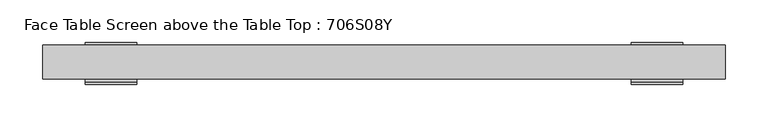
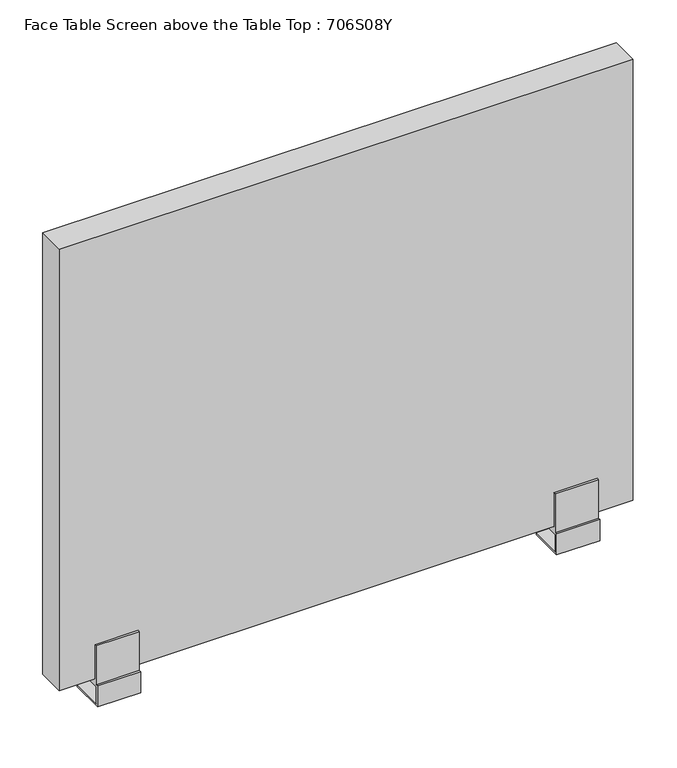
"""IFC4 building model written with IfcOpenShell, lengths in millimetres: furniture geometry, Face Table Screen above the Table Top : 706S08Y."""

from ifc_helpers import new_model, si_unit, frame, origin, place, context, project, spatial, polyline, circle_curve, outline, extrude, source, transform, mapped, element, save
from ifc_brep_helpers import plane_surface, cylinder_surface, advanced_brep


def face_table_screen_above_the_table_top_706s08y_08bfc1dc(model_context):
    return source(origin(), model_context, "Body", "SolidModel", [
        advanced_brep(
        [(-325.0, 0.0, -39.4406633), (-315.0, 0.0, -39.4406633), (-315.0, 0.0, -28.0), (-325.0, 0.0, -28.0), (-350.0, 23.0, -25.0), (-350.0, -23.0, -25.0), (-290.0, -23.0, -25.0), (-290.0, 23.0, -25.0), (-350.0, -23.0, 0.0), (-350.0, 23.0, -28.0), (-350.0, -26.0, -28.0), (-350.0, -26.0, 3.0), (-350.0, -23.0, 3.0), (-350.0, -23.0, 60.0), (-350.0, -20.0, 60.0), (-350.0, -20.0, 10.0), (-350.0, 20.0, 10.0), (-350.0, 20.0, 60.0), (-350.0, 23.0, 60.0), (-350.0, 23.0, 0.0), (-290.0, -23.0, 0.0), (-290.0, 23.0, 0.0), (-290.0, 23.0, 60.0), (-290.0, 20.0, 60.0), (-290.0, 20.0, 10.0), (-290.0, -20.0, 10.0), (-290.0, -20.0, 60.0), (-290.0, -23.0, 60.0), (-290.0, -23.0, 3.0), (-290.0, -26.0, 3.0), (-290.0, -26.0, -28.0), (-290.0, 23.0, -28.0)],
        [
            (0, 1, circle_curve(frame((-320.0, 0.0, -39.4406633), z_axis=(0.0, 0.0, -1.0), x_axis=(1.0, 0.0, 0.0)), 5.0)),
            (1, 0, circle_curve(frame((-320.0, 0.0, -39.4406633), z_axis=(0.0, 0.0, -1.0), x_axis=(1.0, 0.0, 0.0)), 5.0)),
            (1, 2),
            (2, 3, circle_curve(frame((-320.0, 0.0, -28.0), z_axis=(0.0, 0.0, -1.0), x_axis=(1.0, 0.0, 0.0)), 5.0)),
            (3, 0),
            (3, 2, circle_curve(frame((-320.0, 0.0, -28.0), z_axis=(0.0, 0.0, -1.0), x_axis=(1.0, 0.0, 0.0)), 5.0)),
            (4, 5),
            (5, 6),
            (6, 7),
            (7, 4),
            (8, 5),
            (4, 9),
            (9, 10),
            (10, 11),
            (11, 12),
            (12, 13),
            (13, 14),
            (14, 15),
            (15, 16),
            (16, 17),
            (17, 18),
            (18, 19),
            (19, 8),
            (20, 21),
            (21, 22),
            (22, 23),
            (23, 24),
            (24, 25),
            (25, 26),
            (26, 27),
            (27, 28),
            (28, 29),
            (29, 30),
            (30, 31),
            (31, 7),
            (6, 20),
            (19, 21),
            (20, 8),
            (18, 22),
            (17, 23),
            (16, 24),
            (15, 25),
            (14, 26),
            (13, 27),
            (12, 28),
            (11, 29),
            (10, 30),
            (9, 31),
        ],
        [
            plane_surface(frame((-315.0, 0.0, -39.4406633), z_axis=(0.0, 0.0, -1.0), x_axis=(0.0, -1.0, 0.0))),
            cylinder_surface(frame((-320.0, 0.0, -39.4406633), z_axis=(0.0, 0.0, 1.0), x_axis=(1.0, 0.0, 0.0)), 5.0),
            plane_surface(frame((-315.0, 0.0, -25.0), z_axis=(0.0, 0.0, 1.0), x_axis=(0.0, 1.0, 0.0))),
            plane_surface(frame((-350.0, 23.0, 0.0), z_axis=(-1.0, 0.0, 0.0), x_axis=(0.0, -1.0, 0.0))),
            plane_surface(frame((-290.0, 23.0, 0.0), z_axis=(1.0, 0.0, 0.0), x_axis=(0.0, 1.0, 0.0))),
            plane_surface(frame((-290.0, -23.0, 0.0), z_axis=(0.0, 0.0, -1.0), x_axis=(-1.0, 0.0, 0.0))),
            plane_surface(frame((-290.0, 23.0, 0.0), z_axis=(0.0, 1.0, 0.0), x_axis=(-1.0, 0.0, 0.0))),
            plane_surface(frame((-290.0, 23.0, 60.0), z_axis=(0.0, 0.0, 1.0), x_axis=(-1.0, 0.0, 0.0))),
            plane_surface(frame((-290.0, 20.0, 60.0), z_axis=(0.0, -1.0, 0.0), x_axis=(-1.0, 0.0, 0.0))),
            plane_surface(frame((-290.0, 20.0, 10.0), z_axis=(0.0, 0.0, 1.0), x_axis=(-1.0, 0.0, 0.0))),
            plane_surface(frame((-290.0, -20.0, 10.0), z_axis=(0.0, 1.0, 0.0), x_axis=(-1.0, 0.0, 0.0))),
            plane_surface(frame((-290.0, -20.0, 60.0), z_axis=(0.0, 0.0, 1.0), x_axis=(-1.0, 0.0, 0.0))),
            plane_surface(frame((-290.0, -23.0, 60.0), z_axis=(0.0, -1.0, 0.0), x_axis=(-1.0, 0.0, 0.0))),
            plane_surface(frame((-290.0, -23.0, 3.0), z_axis=(0.0, 0.0, 1.0), x_axis=(-1.0, 0.0, 0.0))),
            plane_surface(frame((-290.0, -26.0, 3.0), z_axis=(0.0, -1.0, 0.0), x_axis=(-1.0, 0.0, 0.0))),
            plane_surface(frame((-290.0, -26.0, -28.0), z_axis=(0.0, 0.0, -1.0), x_axis=(-1.0, 0.0, 0.0))),
            plane_surface(frame((-290.0, 23.0, -28.0), z_axis=(0.0, 1.0, 0.0), x_axis=(-1.0, 0.0, 0.0))),
            plane_surface(frame((-290.0, -23.0, -25.0), z_axis=(0.0, 1.0, 0.0), x_axis=(-1.0, 0.0, 0.0))),
        ],
        [
            (0, [[1, 2]]),
            (1, [[-2, 3, 4, 5]]),
            (1, [[-1, -5, 6, -3]]),
            (2, [[7, 8, 9, 10]]),
            (3, [[11, -7, 12, 13, 14, 15, 16, 17, 18, 19, 20, 21, 22, 23]]),
            (4, [[24, 25, 26, 27, 28, 29, 30, 31, 32, 33, 34, 35, -9, 36]]),
            (5, [[-23, 37, -24, 38]]),
            (6, [[-22, 39, -25, -37]]),
            (7, [[-21, 40, -26, -39]]),
            (8, [[-20, 41, -27, -40]]),
            (9, [[-19, 42, -28, -41]]),
            (10, [[-18, 43, -29, -42]]),
            (11, [[-17, 44, -30, -43]]),
            (12, [[-16, 45, -31, -44]]),
            (13, [[-15, 46, -32, -45]]),
            (14, [[-14, 47, -33, -46]]),
            (15, [[-13, 48, -34, -47], [-4, -6]]),
            (16, [[-12, -10, -35, -48]]),
            (17, [[-11, -38, -36, -8]]),
        ],
    ),
        advanced_brep(
        [(315.0, 0.0, -39.4406633), (325.0, 0.0, -39.4406633), (325.0, 0.0, -28.0), (315.0, 0.0, -28.0), (290.0, 23.0, -25.0), (290.0, -23.0, -25.0), (350.0, -23.0, -25.0), (350.0, 23.0, -25.0), (290.0, -23.0, 0.0), (290.0, 23.0, -28.0), (290.0, -26.0, -28.0), (290.0, -26.0, 3.0), (290.0, -23.0, 3.0), (290.0, -23.0, 60.0), (290.0, -20.0, 60.0), (290.0, -20.0, 10.0), (290.0, 20.0, 10.0), (290.0, 20.0, 60.0), (290.0, 23.0, 60.0), (290.0, 23.0, 0.0), (350.0, -23.0, 0.0), (350.0, 23.0, 0.0), (350.0, 23.0, 60.0), (350.0, 20.0, 60.0), (350.0, 20.0, 10.0), (350.0, -20.0, 10.0), (350.0, -20.0, 60.0), (350.0, -23.0, 60.0), (350.0, -23.0, 3.0), (350.0, -26.0, 3.0), (350.0, -26.0, -28.0), (350.0, 23.0, -28.0)],
        [
            (0, 1, circle_curve(frame((320.0, 0.0, -39.4406633), z_axis=(0.0, 0.0, -1.0), x_axis=(1.0, 0.0, 0.0)), 5.0)),
            (1, 0, circle_curve(frame((320.0, 0.0, -39.4406633), z_axis=(0.0, 0.0, -1.0), x_axis=(1.0, 0.0, 0.0)), 5.0)),
            (1, 2),
            (2, 3, circle_curve(frame((320.0, 0.0, -28.0), z_axis=(0.0, 0.0, -1.0), x_axis=(1.0, 0.0, 0.0)), 5.0)),
            (3, 0),
            (3, 2, circle_curve(frame((320.0, 0.0, -28.0), z_axis=(0.0, 0.0, -1.0), x_axis=(1.0, 0.0, 0.0)), 5.0)),
            (4, 5),
            (5, 6),
            (6, 7),
            (7, 4),
            (8, 5),
            (4, 9),
            (9, 10),
            (10, 11),
            (11, 12),
            (12, 13),
            (13, 14),
            (14, 15),
            (15, 16),
            (16, 17),
            (17, 18),
            (18, 19),
            (19, 8),
            (20, 21),
            (21, 22),
            (22, 23),
            (23, 24),
            (24, 25),
            (25, 26),
            (26, 27),
            (27, 28),
            (28, 29),
            (29, 30),
            (30, 31),
            (31, 7),
            (6, 20),
            (19, 21),
            (20, 8),
            (18, 22),
            (17, 23),
            (16, 24),
            (15, 25),
            (14, 26),
            (13, 27),
            (12, 28),
            (11, 29),
            (10, 30),
            (9, 31),
        ],
        [
            plane_surface(frame((325.0, 0.0, -39.4406633), z_axis=(0.0, 0.0, -1.0), x_axis=(0.0, -1.0, 0.0))),
            cylinder_surface(frame((320.0, 0.0, -39.4406633), z_axis=(0.0, 0.0, 1.0), x_axis=(1.0, 0.0, 0.0)), 5.0),
            plane_surface(frame((325.0, 0.0, -25.0), z_axis=(0.0, 0.0, 1.0), x_axis=(0.0, 1.0, 0.0))),
            plane_surface(frame((290.0, 23.0, 0.0), z_axis=(-1.0, 0.0, 0.0), x_axis=(0.0, -1.0, 0.0))),
            plane_surface(frame((350.0, 23.0, 0.0), z_axis=(1.0, 0.0, 0.0), x_axis=(0.0, 1.0, 0.0))),
            plane_surface(frame((350.0, -23.0, 0.0), z_axis=(0.0, 0.0, -1.0), x_axis=(-1.0, 0.0, 0.0))),
            plane_surface(frame((350.0, 23.0, 0.0), z_axis=(0.0, 1.0, 0.0), x_axis=(-1.0, 0.0, 0.0))),
            plane_surface(frame((350.0, 23.0, 60.0), z_axis=(0.0, 0.0, 1.0), x_axis=(-1.0, 0.0, 0.0))),
            plane_surface(frame((350.0, 20.0, 60.0), z_axis=(0.0, -1.0, 0.0), x_axis=(-1.0, 0.0, 0.0))),
            plane_surface(frame((350.0, 20.0, 10.0), z_axis=(0.0, 0.0, 1.0), x_axis=(-1.0, 0.0, 0.0))),
            plane_surface(frame((350.0, -20.0, 10.0), z_axis=(0.0, 1.0, 0.0), x_axis=(-1.0, 0.0, 0.0))),
            plane_surface(frame((350.0, -20.0, 60.0), z_axis=(0.0, 0.0, 1.0), x_axis=(-1.0, 0.0, 0.0))),
            plane_surface(frame((350.0, -23.0, 60.0), z_axis=(0.0, -1.0, 0.0), x_axis=(-1.0, 0.0, 0.0))),
            plane_surface(frame((350.0, -23.0, 3.0), z_axis=(0.0, 0.0, 1.0), x_axis=(-1.0, 0.0, 0.0))),
            plane_surface(frame((350.0, -26.0, 3.0), z_axis=(0.0, -1.0, 0.0), x_axis=(-1.0, 0.0, 0.0))),
            plane_surface(frame((350.0, -26.0, -28.0), z_axis=(0.0, 0.0, -1.0), x_axis=(-1.0, 0.0, 0.0))),
            plane_surface(frame((350.0, 23.0, -28.0), z_axis=(0.0, 1.0, 0.0), x_axis=(-1.0, 0.0, 0.0))),
            plane_surface(frame((350.0, -23.0, -25.0), z_axis=(0.0, 1.0, 0.0), x_axis=(-1.0, 0.0, 0.0))),
        ],
        [
            (0, [[1, 2]]),
            (1, [[-2, 3, 4, 5]]),
            (1, [[-1, -5, 6, -3]]),
            (2, [[7, 8, 9, 10]]),
            (3, [[11, -7, 12, 13, 14, 15, 16, 17, 18, 19, 20, 21, 22, 23]]),
            (4, [[24, 25, 26, 27, 28, 29, 30, 31, 32, 33, 34, 35, -9, 36]]),
            (5, [[-23, 37, -24, 38]]),
            (6, [[-22, 39, -25, -37]]),
            (7, [[-21, 40, -26, -39]]),
            (8, [[-20, 41, -27, -40]]),
            (9, [[-19, 42, -28, -41]]),
            (10, [[-18, 43, -29, -42]]),
            (11, [[-17, 44, -30, -43]]),
            (12, [[-16, 45, -31, -44]]),
            (13, [[-15, 46, -32, -45]]),
            (14, [[-14, 47, -33, -46]]),
            (15, [[-13, 48, -34, -47], [-4, -6]]),
            (16, [[-12, -10, -35, -48]]),
            (17, [[-11, -38, -36, -8]]),
        ],
    ),
        extrude(outline(polyline([(400.0, -20.0), (-400.0, -20.0), (-400.0, 20.0), (400.0, 20.0), (400.0, -20.0)])), frame((0.0, 0.0, 10.0), z_axis=(0.0, 0.0, 1.0), x_axis=(1.0, 0.0, 0.0)), (0.0, 0.0, 1.0), 650.0),
    ])


if __name__ == "__main__":
    model = new_model("IFC4")
    model_context = context("Model", 3, world=origin())
    ifc_project = project(units=[si_unit("LENGTHUNIT", "METRE", prefix="MILLI")], contexts=[model_context])
    site = spatial("IfcSite", under=ifc_project)
    building = spatial("IfcBuilding", under=site)
    placement = place(None, origin())
    face_table_screen_above_the_table_top_706s08y_shape = face_table_screen_above_the_table_top_706s08y_08bfc1dc(model_context)
    element("IfcFurniture", 1, ObjectType="Face Table Screen above the Table Top : 706S08Y", at=placement, inside=building, context=model_context, shape_type="MappedRepresentation", body=[
        mapped(face_table_screen_above_the_table_top_706s08y_shape, transform((0.0, 0.0, 0.0), x_axis=(1.0, 0.0, 0.0), y_axis=(0.0, 1.0, 0.0), z_axis=(0.0, 0.0, 1.0))),
    ])
    save(model, "model.ifc")
